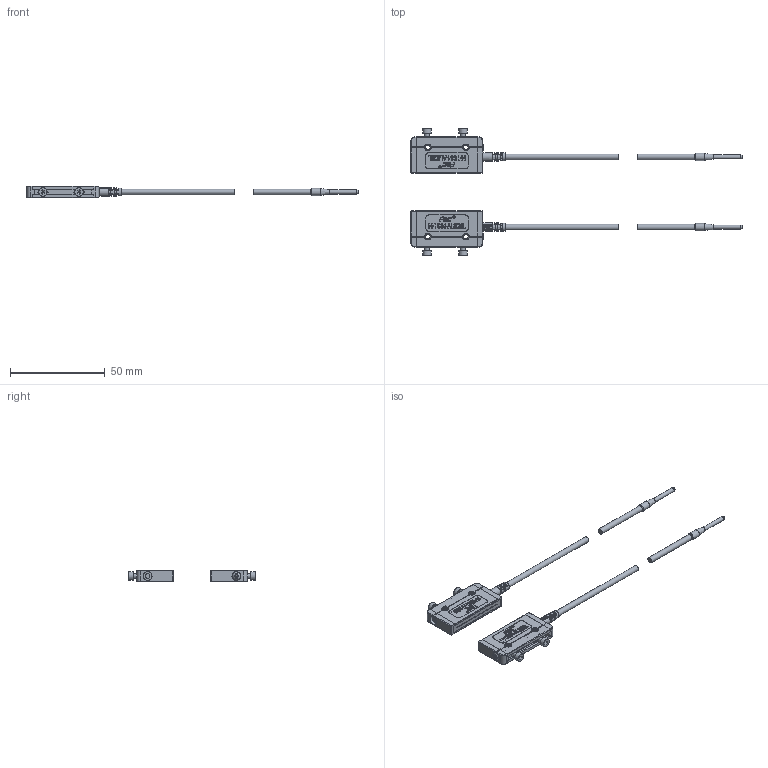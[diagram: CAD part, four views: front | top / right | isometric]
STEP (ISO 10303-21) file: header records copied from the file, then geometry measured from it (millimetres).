
FILE_DESCRIPTION(/* description */ (''),/* implementation_level */ '2;1');
FILE_NAME(/* name */ 'FFTC34-AL30ML-CP',/* time_stamp */ '2022-07-22T10:18:55+08:00',/* author */ (''),/* organization */ (''),/* preprocessor_version */ 'ST-DEVELOPER v9',/* originating_system */ 'UGS - NX 4.0',/* authorisation */ '');
FILE_SCHEMA (('CONFIG_CONTROL_DESIGN'));
Products named in the file (1): FFTC34-AL30ML
Bounding box: 174.93 x 66.8 x 6 mm (x, y, z)
Volume: 9656.7 mm3; surface area: 11078.3 mm2
Topology: 20 solids, 20 shells, 1487 faces, 3846 edges, 2511 vertices
Faces by surface type: plane 811, cylinder 261, bspline 176, extrusion 138, cone 93, torus 5, sphere 3
Full cylindrical faces by diameter (mm): 0.27 x68, 1.1 x4, 1.134 x2, 1.334 x2, 2 x5, 2.2 x7, 2.5 x6, 3 x6, 3.82 x2, 4.5 x4, 4.565 x2, 4.6 x2, 4.7 x2
Entity records: 62574 total; most frequent: CARTESIAN_POINT 29431, ORIENTED_EDGE 7134, DIRECTION 5697, EDGE_CURVE 3567, VERTEX_POINT 2418, VECTOR 2039, LINE 1901, EDGE_LOOP 1839
